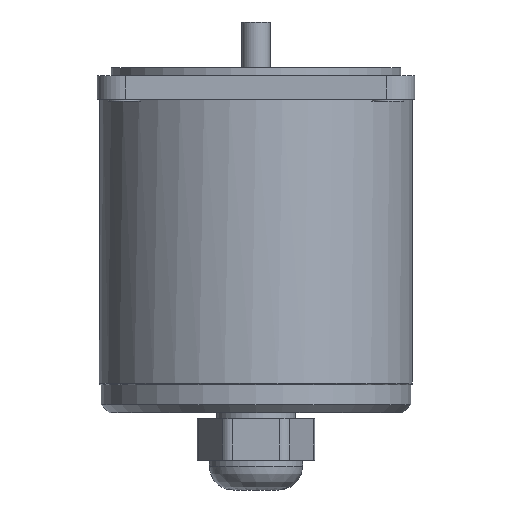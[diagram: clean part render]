
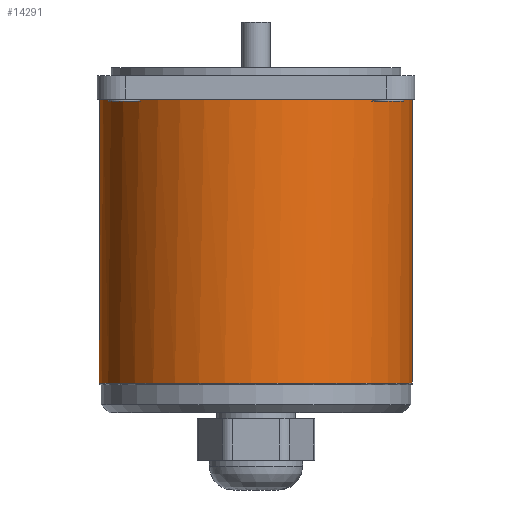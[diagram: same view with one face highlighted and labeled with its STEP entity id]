
A CAD part, front view. The second image highlights one B-rep face of the part: STEP entity #14291.
In plain terms, the highlighted cylindrical face has radius 39.5 mm (diameter 79 mm), a full revolution.
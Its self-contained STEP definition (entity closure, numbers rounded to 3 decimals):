
#14213=CARTESIAN_POINT('',(-39.5,0.,-71.5));
#14214=VERTEX_POINT('',#14213);
#14215=CARTESIAN_POINT('',(0.0,0.0,-71.5));
#14216=DIRECTION('',(0.0,0.0,-1.0));
#14217=DIRECTION('',(1.0,0.0,0.0));
#14218=AXIS2_PLACEMENT_3D('',#14215,#14216,#14217);
#14219=CIRCLE('',#14218,39.5);
#14220=EDGE_CURVE('',#14214,#14214,#14219,.T.);
#14225=CARTESIAN_POINT('',(0.0,0.0,0.0));
#14226=DIRECTION('',(0.0,0.0,-1.0));
#14227=DIRECTION('',(1.0,0.0,0.0));
#14228=AXIS2_PLACEMENT_3D('',#14225,#14226,#14227);
#14229=CYLINDRICAL_SURFACE('',#14228,39.5);
#14230=CARTESIAN_POINT('',(-27.65,28.209,-61.));
#14231=VERTEX_POINT('',#14230);
#14232=CARTESIAN_POINT('',(-27.65,28.209,0.0));
#14233=VERTEX_POINT('',#14232);
#14234=CARTESIAN_POINT('',(-27.65,28.209,-61.));
#14235=DIRECTION('',(0.0,0.0,1.0));
#14236=VECTOR('',#14235,61.);
#14237=LINE('',#14234,#14236);
#14238=EDGE_CURVE('',#14231,#14233,#14237,.T.);
#14239=ORIENTED_EDGE('',*,*,#14238,.F.);
#14240=CARTESIAN_POINT('',(-26.662,29.144,-62.0));
#14241=VERTEX_POINT('',#14240);
#14242=CARTESIAN_POINT('',(-26.663,29.144,-62.0));
#14243=CARTESIAN_POINT('',(-26.857,28.966,-62.0));
#14244=CARTESIAN_POINT('',(-27.179,28.665,-61.905));
#14245=CARTESIAN_POINT('',(-27.548,28.309,-61.525));
#14246=CARTESIAN_POINT('',(-27.65,28.209,-61.178));
#14247=CARTESIAN_POINT('',(-27.65,28.209,-61.));
#14248=B_SPLINE_CURVE_WITH_KNOTS('',3,(#14242,#14243,#14244,#14245,#14246,#14247),.UNSPECIFIED.,.F.,.U.,(4,1,1,4),(0.0,0.08,0.134,0.187),.UNSPECIFIED.);
#14249=EDGE_CURVE('',#14241,#14231,#14248,.T.);
#14250=ORIENTED_EDGE('',*,*,#14249,.F.);
#14251=CARTESIAN_POINT('',(26.663,29.144,-62.0));
#14252=VERTEX_POINT('',#14251);
#14253=CARTESIAN_POINT('',(0.0,0.0,-62.0));
#14254=DIRECTION('',(0.0,0.0,1.0));
#14255=DIRECTION('',(0.0,1.0,0.0));
#14256=AXIS2_PLACEMENT_3D('',#14253,#14254,#14255);
#14257=CIRCLE('',#14256,39.5);
#14258=EDGE_CURVE('',#14252,#14241,#14257,.T.);
#14259=ORIENTED_EDGE('',*,*,#14258,.F.);
#14260=CARTESIAN_POINT('',(27.65,28.209,-61.));
#14261=VERTEX_POINT('',#14260);
#14262=CARTESIAN_POINT('',(27.65,28.209,-61.));
#14263=CARTESIAN_POINT('',(27.65,28.209,-61.134));
#14264=CARTESIAN_POINT('',(27.594,28.263,-61.4));
#14265=CARTESIAN_POINT('',(27.282,28.567,-61.863));
#14266=CARTESIAN_POINT('',(26.922,28.906,-62.0));
#14267=CARTESIAN_POINT('',(26.663,29.144,-62.0));
#14268=B_SPLINE_CURVE_WITH_KNOTS('',3,(#14262,#14263,#14264,#14265,#14266,#14267),.UNSPECIFIED.,.F.,.U.,(4,1,1,4),(0.0,0.04,0.08,0.187),.UNSPECIFIED.);
#14269=EDGE_CURVE('',#14261,#14252,#14268,.T.);
#14270=ORIENTED_EDGE('',*,*,#14269,.F.);
#14271=CARTESIAN_POINT('',(27.65,28.209,0.0));
#14272=VERTEX_POINT('',#14271);
#14273=CARTESIAN_POINT('',(27.65,28.209,0.0));
#14274=DIRECTION('',(0.0,0.0,-1.0));
#14275=VECTOR('',#14274,61.);
#14276=LINE('',#14273,#14275);
#14277=EDGE_CURVE('',#14272,#14261,#14276,.T.);
#14278=ORIENTED_EDGE('',*,*,#14277,.F.);
#14279=CARTESIAN_POINT('',(0.0,0.0,0.0));
#14280=DIRECTION('',(0.0,0.0,1.0));
#14281=DIRECTION('',(1.0,0.0,0.0));
#14282=AXIS2_PLACEMENT_3D('',#14279,#14280,#14281);
#14283=CIRCLE('',#14282,39.5);
#14284=EDGE_CURVE('',#14233,#14272,#14283,.T.);
#14285=ORIENTED_EDGE('',*,*,#14284,.F.);
#14286=EDGE_LOOP('',(#14239,#14250,#14259,#14270,#14278,#14285));
#14287=FACE_OUTER_BOUND('',#14286,.T.);
#14288=ORIENTED_EDGE('',*,*,#14220,.F.);
#14289=EDGE_LOOP('',(#14288));
#14290=FACE_BOUND('',#14289,.T.);
#14291=ADVANCED_FACE('',(#14287,#14290),#14229,.T.);
